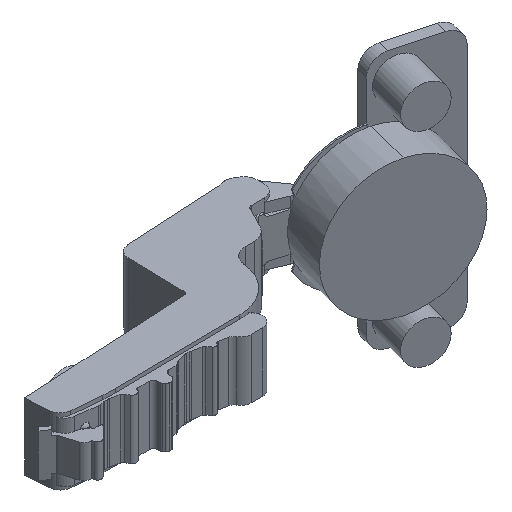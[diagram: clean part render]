
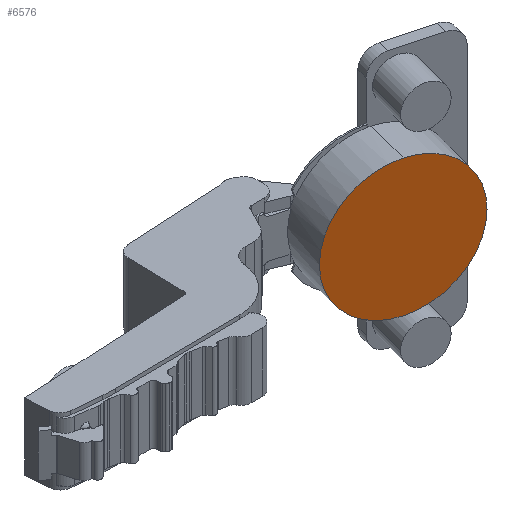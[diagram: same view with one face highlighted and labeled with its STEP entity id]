
A CAD part, isometric view. The second image highlights one B-rep face of the part: STEP entity #6576.
In plain terms, the highlighted planar face has unit normal (-0.261, -0.965, 0).
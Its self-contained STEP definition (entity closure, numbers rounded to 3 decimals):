
#249 = CARTESIAN_POINT ( 'NONE',  ( -5.239, -17.099, 0. ) ) ;
#267 = CARTESIAN_POINT ( 'NONE',  ( -5.239, -17.099, 0. ) ) ;
#1026 = VERTEX_POINT ( 'NONE', #5195 ) ;
#1507 = AXIS2_PLACEMENT_3D ( 'NONE', #6944, #5832, #5867 ) ;
#1588 = EDGE_CURVE ( 'NONE', #3914, #1026, #5466, .T. ) ;
#3063 = DIRECTION ( 'NONE',  ( 0.965, -0.261, 0. ) ) ;
#3650 = DIRECTION ( 'NONE',  ( -0.261, -0.965, 0. ) ) ;
#3914 = VERTEX_POINT ( 'NONE', #6690 ) ;
#4162 = DIRECTION ( 'NONE',  ( 0.965, -0.261, 0. ) ) ;
#4263 = PLANE ( 'NONE',  #1507 ) ;
#4486 = ORIENTED_EDGE ( 'NONE', *, *, #1588, .T. ) ;
#4506 = ORIENTED_EDGE ( 'NONE', *, *, #4526, .T. ) ;
#4526 = EDGE_CURVE ( 'NONE', #1026, #3914, #6440, .T. ) ;
#4576 = FACE_OUTER_BOUND ( 'NONE', #6552, .T. ) ;
#5195 = CARTESIAN_POINT ( 'NONE',  ( -5.239, -17.099, 17.4 ) ) ;
#5382 = DIRECTION ( 'NONE',  ( -0.261, -0.965, 0. ) ) ;
#5466 = CIRCLE ( 'NONE', #5581, 17.4 ) ;
#5581 = AXIS2_PLACEMENT_3D ( 'NONE', #267, #3650, #4162 ) ;
#5832 = DIRECTION ( 'NONE',  ( 0.261, 0.965, 0. ) ) ;
#5867 = DIRECTION ( 'NONE',  ( 0., 0., 1. ) ) ;
#6440 = CIRCLE ( 'NONE', #7261, 17.4 ) ;
#6552 = EDGE_LOOP ( 'NONE', ( #4506, #4486 ) ) ;
#6576 = ADVANCED_FACE ( 'NONE', ( #4576 ), #4263, .F. ) ;
#6690 = CARTESIAN_POINT ( 'NONE',  ( -5.239, -17.099, -17.4 ) ) ;
#6944 = CARTESIAN_POINT ( 'NONE',  ( 5.347, -19.961, -7.7 ) ) ;
#7261 = AXIS2_PLACEMENT_3D ( 'NONE', #249, #5382, #3063 ) ;
